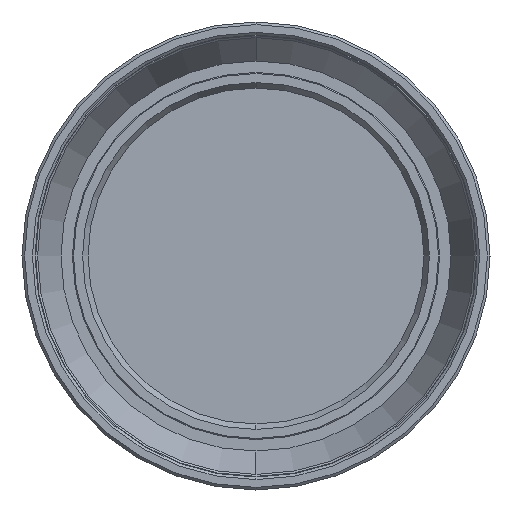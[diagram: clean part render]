
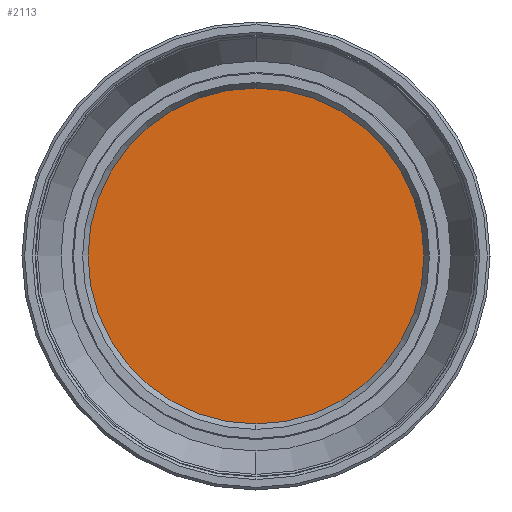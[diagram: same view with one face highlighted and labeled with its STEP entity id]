
A CAD part, left-side view. The second image highlights one B-rep face of the part: STEP entity #2113.
In plain terms, the highlighted planar face has unit normal (-1, 0, 0).
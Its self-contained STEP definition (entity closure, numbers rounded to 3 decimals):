
#91 = VERTEX_POINT ( 'NONE', #1736 ) ;
#248 = DIRECTION ( 'NONE',  ( 0., 0., 1. ) ) ;
#359 = CARTESIAN_POINT ( 'NONE',  ( -119.933, 0., -32.4 ) ) ;
#619 = EDGE_CURVE ( 'NONE', #91, #1379, #3878, .T. ) ;
#670 = ORIENTED_EDGE ( 'NONE', *, *, #619, .T. ) ;
#798 = CARTESIAN_POINT ( 'NONE',  ( -119.933, 0., 0. ) ) ;
#1219 = CIRCLE ( 'NONE', #2472, 32.4 ) ;
#1366 = DIRECTION ( 'NONE',  ( -1., 0., 0. ) ) ;
#1379 = VERTEX_POINT ( 'NONE', #359 ) ;
#1433 = CARTESIAN_POINT ( 'NONE',  ( -119.933, 0., 0. ) ) ;
#1472 = FACE_OUTER_BOUND ( 'NONE', #1905, .T. ) ;
#1484 = DIRECTION ( 'NONE',  ( 0., 0., -1. ) ) ;
#1736 = CARTESIAN_POINT ( 'NONE',  ( -119.933, 0., 32.4 ) ) ;
#1838 = DIRECTION ( 'NONE',  ( -1., 0., 0. ) ) ;
#1855 = CARTESIAN_POINT ( 'NONE',  ( -119.933, 32.4, 0. ) ) ;
#1872 = DIRECTION ( 'NONE',  ( 0., 0., 1. ) ) ;
#1905 = EDGE_LOOP ( 'NONE', ( #3584, #670 ) ) ;
#2113 = ADVANCED_FACE ( 'NONE', ( #1472 ), #5006, .F. ) ;
#2164 = AXIS2_PLACEMENT_3D ( 'NONE', #1433, #1838, #1872 ) ;
#2250 = DIRECTION ( 'NONE',  ( 1., 0., 0. ) ) ;
#2472 = AXIS2_PLACEMENT_3D ( 'NONE', #798, #1366, #248 ) ;
#3161 = EDGE_CURVE ( 'NONE', #1379, #91, #1219, .T. ) ;
#3544 = AXIS2_PLACEMENT_3D ( 'NONE', #1855, #2250, #1484 ) ;
#3584 = ORIENTED_EDGE ( 'NONE', *, *, #3161, .T. ) ;
#3878 = CIRCLE ( 'NONE', #2164, 32.4 ) ;
#5006 = PLANE ( 'NONE',  #3544 ) ;
